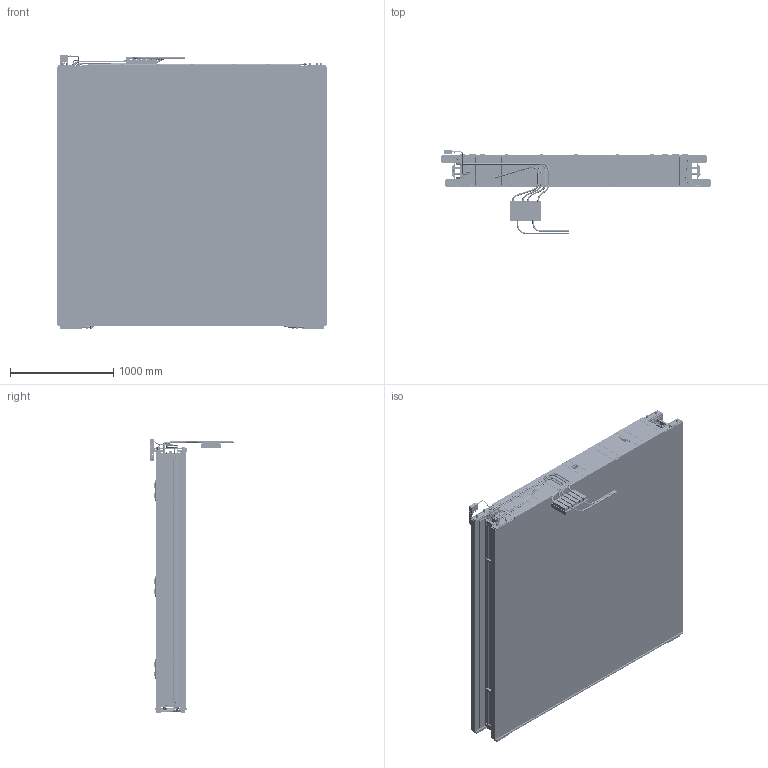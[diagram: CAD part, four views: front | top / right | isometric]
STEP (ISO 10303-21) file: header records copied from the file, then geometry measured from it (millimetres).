
FILE_DESCRIPTION(/* description */ (''),/* implementation_level */ '2;1');
FILE_NAME(/* name */ '040209_mb410_2_4_10_dx_phi_R_carters.stp',/* time_stamp */ '2022-04-13T17:08:39+02:00',/* author */ (''),/* organization */ (''),/* preprocessor_version */ 'ST-DEVELOPER v18.1',/* originating_system */ 'SIEMENS PLM Software NX 1992',/* authorisation */ '');
FILE_SCHEMA (('AUTOMOTIVE_DESIGN { 1 0 10303 214 3 1 1 1 }'));
Products named in the file (1): zago2B10850Da2j2
Bounding box: 2612 x 815.75 x 2646.02 mm (x, y, z)
Volume: 1728500307 mm3; surface area: 146706184.1 mm2
Topology: 257 solids, 257 shells, 11003 faces, 28076 edges, 17618 vertices
Faces by surface type: plane 6782, cylinder 3324, cone 694, bspline 110, torus 69, sphere 24
Full cylindrical faces by diameter (mm): 1 x148, 1.675 x8, 2.594 x36, 3 x48, 3.2 x8, 3.25 x2, 3.3 x24, 3.432 x329, 3.5 x38, 3.778 x7, 4 x34, 4.351 x4, 4.8 x33, 5 x58, 5.188 x44, 5.5 x216, 6 x26, 6.4 x48, 6.5 x17, 7 x2, 7.188 x4, 7.5 x48, 8 x41, 8.6 x4, 8.782 x4, 8.8 x10, 8.933 x16, 8.985 x24, 9 x2, 9.061 x1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
Entity records: 342527 total; most frequent: CARTESIAN_POINT 81441, DIRECTION 50212, ORIENTED_EDGE 49090, EDGE_CURVE 24545, AXIS2_PLACEMENT_3D 17622, VERTEX_POINT 16631, EDGE_LOOP 15601, LINE 14968
